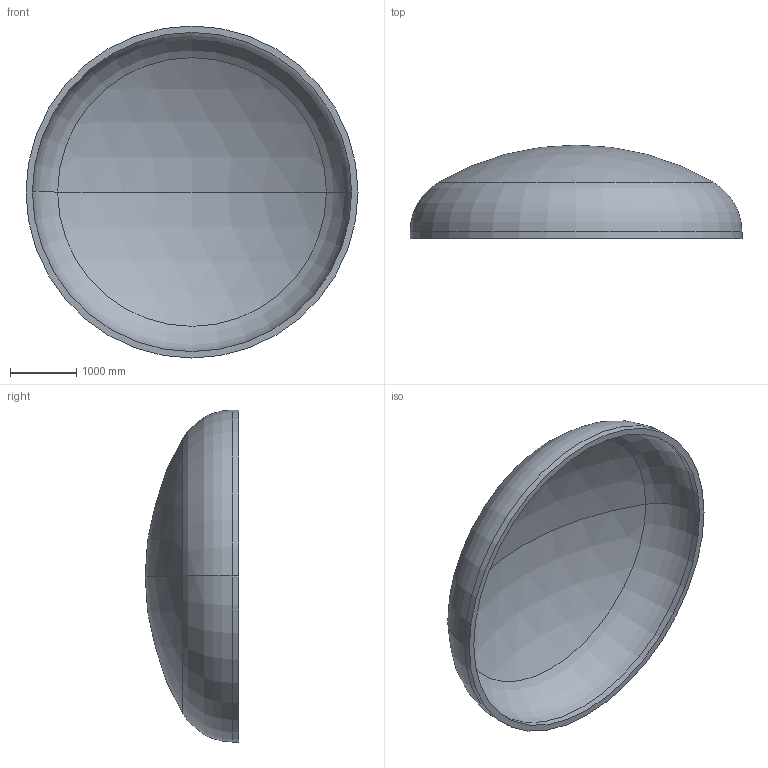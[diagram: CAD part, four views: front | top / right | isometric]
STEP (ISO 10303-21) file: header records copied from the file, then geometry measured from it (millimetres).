
FILE_DESCRIPTION (( 'STEP AP203' ), '1' );
FILE_NAME ('DIN 28013 Korbbogenform_-_Boden DIN 28013 - 5000 x 100 - I - s=96.step', '2016-07-02T00:54:00', ( '' ), ( '' ), 'SwSTEP 2.0', 'SolidWorks 2013', '' );
FILE_SCHEMA (( 'CONFIG_CONTROL_DESIGN' ));
Length unit declared in the file: millimetre
Products named in the file (1): DIN 28013 Korbbogenform_-_Boden DIN 28013 - 5000 x 100 - I - s=96
Bounding box: 5000 x 1409.79 x 5000 mm (x, y, z)
Volume: 2693340108.1 mm3; surface area: 57609545.4 mm2
Topology: 1 solids, 1 shells, 13 faces, 24 edges, 14 vertices
Faces by surface type: torus 4, cylinder 4, sphere 4, plane 1
Entity records: 407 total; most frequent: DIRECTION 72, CARTESIAN_POINT 52, ORIENTED_EDGE 48, AXIS2_PLACEMENT_3D 34, EDGE_CURVE 24, CIRCLE 20, EDGE_LOOP 14, VERTEX_POINT 14
